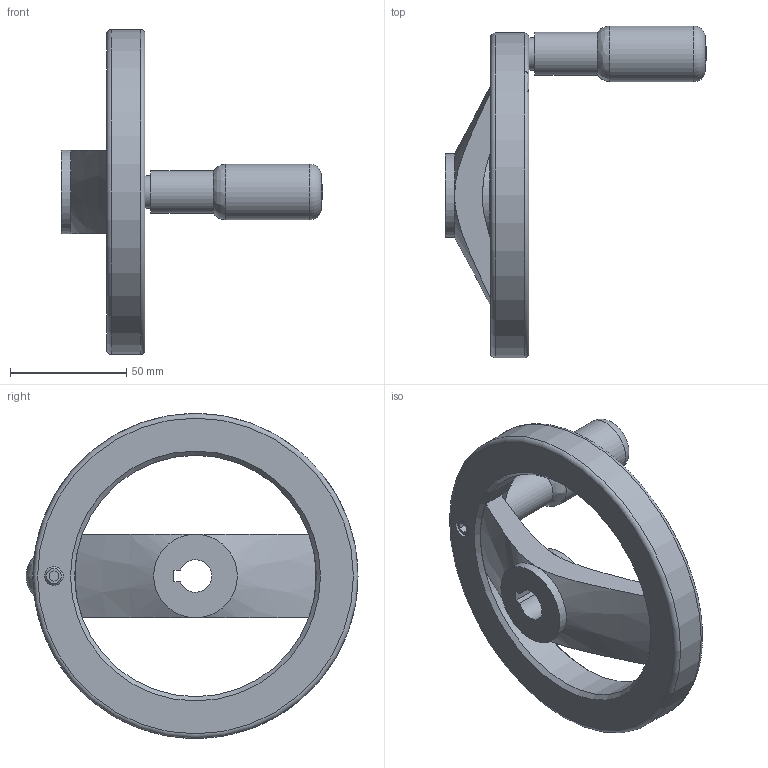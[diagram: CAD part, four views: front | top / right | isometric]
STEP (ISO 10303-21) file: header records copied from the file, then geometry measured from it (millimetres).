
FILE_DESCRIPTION( ( 'STEP AP203' ), '1' );
FILE_NAME( 'C:/Temp/Ganter_Step_05_03_2020/data/1_3/gn_324/gn_324_k/gn_324_k_d/Handwheel, matt black GN 324-140-K14-R.stp', '2020-03-05T10:33:02', ( 'License CC BY-ND 4.0' ), ( 'CADENAS' ), ' ', 'PARTsolutions', ' ' );
FILE_SCHEMA( ( 'CONFIG_CONTROL_DESIGN' ) );
Length unit declared in the file: millimetre
Products named in the file (1): _Handwheel, matt black GN 324-140-K14-R
Bounding box: 112.5 x 143 x 140 mm (x, y, z)
Volume: 184780.4 mm3; surface area: 41614.4 mm2
Topology: 1 solids, 2 shells, 43 faces, 99 edges, 61 vertices
Faces by surface type: plane 19, cylinder 11, cone 8, torus 3, sphere 1, bspline 1
Full cylindrical faces by diameter (mm): 6.446 x1, 8 x2, 14 x1, 18.5 x1, 24 x1, 36 x2, 104 x1, 140 x1
Entity records: 1275 total; most frequent: CARTESIAN_POINT 349, DIRECTION 186, ORIENTED_EDGE 148, AXIS2_PLACEMENT_3D 77, EDGE_CURVE 74, EDGE_LOOP 71, FACE_OUTER_BOUND 57, VERTEX_POINT 56
